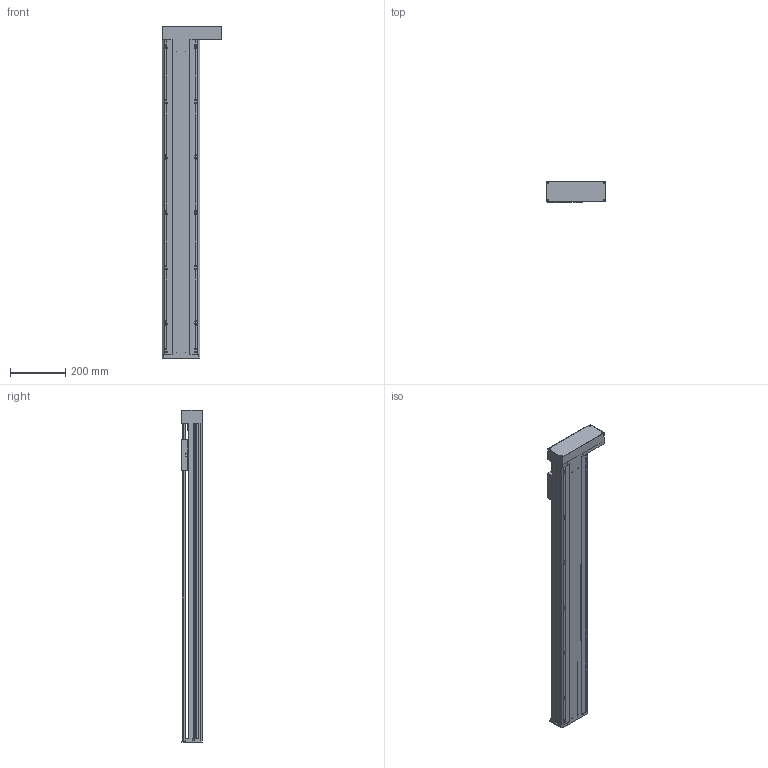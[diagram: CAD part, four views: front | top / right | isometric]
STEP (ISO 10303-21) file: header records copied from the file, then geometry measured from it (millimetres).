
FILE_DESCRIPTION(/* description */ (''),/* implementation_level */ '2;1');
FILE_NAME(/* name */ 'TKA136-FR-950_asm1.stp',/* time_stamp */ '2016-05-07T14:55:21+08:00',/* author */ (''),/* organization */ (''),/* preprocessor_version */ 'ST-DEVELOPER v15',/* originating_system */ 'SIEMENS PLM Software NX 8.5',/* authorisation */ '');
FILE_SCHEMA (('AUTOMOTIVE_DESIGN { 1 0 10303 214 3 1 1 1 }'));
Length unit declared in the file: millimetre
Products named in the file (3): 100-02; 100-01; TKA136-FR-950_asm1
Assembly tree (2 placements, depth 2):
  TKA136-FR-950_asm1
    100-01
    100-02
Bounding box: 216 x 75 x 1200 mm (x, y, z)
Volume: 3657149.9 mm3; surface area: 1426274.6 mm2
Topology: 2 solids, 12 shells, 913 faces, 2624 edges, 1717 vertices
Faces by surface type: cylinder 441, plane 419, cone 53
Full cylindrical faces by diameter (mm): 2.5 x4, 3 x2, 3.3 x15, 4 x4, 4.2 x14, 4.5 x26, 5 x18, 5.5 x26, 6.6 x18, 8 x20, 10 x9, 10.5 x14, 11 x4, 11.6 x1, 12 x9, 15 x3, 16 x5, 17 x1, 24 x5, 26 x1, 28 x1, 46 x2, 50 x1
Entity records: 30969 total; most frequent: CARTESIAN_POINT 8384, DIRECTION 4667, ORIENTED_EDGE 4410, EDGE_CURVE 2205, AXIS2_PLACEMENT_3D 1781, VERTEX_POINT 1579, EDGE_LOOP 1349, LINE 1105
